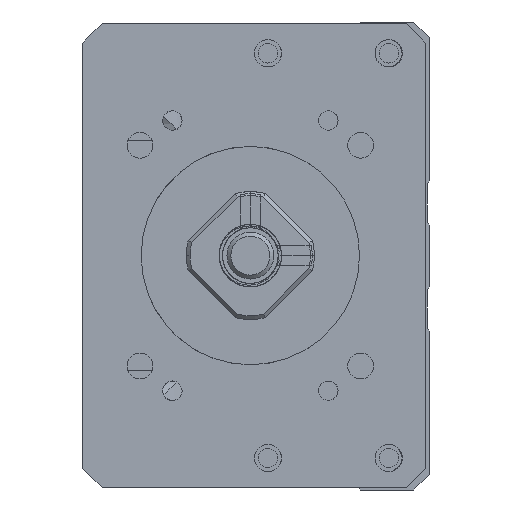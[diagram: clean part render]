
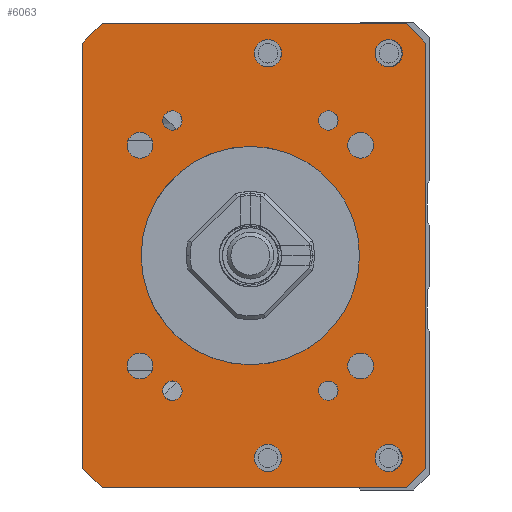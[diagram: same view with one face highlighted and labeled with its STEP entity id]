
A CAD part, left-side view. The second image highlights one B-rep face of the part: STEP entity #6063.
In plain terms, the highlighted planar face has unit normal (-1, 0, 0).
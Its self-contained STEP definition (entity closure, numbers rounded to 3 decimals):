
#4393=LINE('',#18594,#5220);
#4395=LINE('',#18618,#5222);
#4396=LINE('',#18620,#5223);
#4397=LINE('',#18622,#5224);
#4398=LINE('',#18624,#5225);
#4399=LINE('',#18626,#5226);
#4400=LINE('',#18628,#5227);
#4401=LINE('',#18630,#5228);
#5220=VECTOR('',#15532,1.);
#5222=VECTOR('',#15556,1.);
#5223=VECTOR('',#15557,1.);
#5224=VECTOR('',#15558,1.);
#5225=VECTOR('',#15559,1.);
#5226=VECTOR('',#15560,1.);
#5227=VECTOR('',#15561,1.);
#5228=VECTOR('',#15562,1.);
#6063=ADVANCED_FACE('',(#7119,#7120,#7121,#7122,#7123,#7124,#7125,#7126,
#7127,#7128,#7129,#7130,#7131,#7132),#6727,.F.);
#6727=PLANE('',#14436);
#7119=FACE_BOUND('',#7636,.T.);
#7120=FACE_BOUND('',#7637,.T.);
#7121=FACE_BOUND('',#7638,.T.);
#7122=FACE_BOUND('',#7639,.T.);
#7123=FACE_BOUND('',#7640,.T.);
#7124=FACE_BOUND('',#7641,.T.);
#7125=FACE_BOUND('',#7642,.T.);
#7126=FACE_BOUND('',#7643,.T.);
#7127=FACE_BOUND('',#7644,.T.);
#7128=FACE_BOUND('',#7645,.T.);
#7129=FACE_BOUND('',#7646,.T.);
#7130=FACE_BOUND('',#7647,.T.);
#7131=FACE_BOUND('',#7648,.T.);
#7132=FACE_BOUND('',#7649,.T.);
#7636=EDGE_LOOP('',(#8615));
#7637=EDGE_LOOP('',(#8616));
#7638=EDGE_LOOP('',(#8617));
#7639=EDGE_LOOP('',(#8618));
#7640=EDGE_LOOP('',(#8619));
#7641=EDGE_LOOP('',(#8620));
#7642=EDGE_LOOP('',(#8621));
#7643=EDGE_LOOP('',(#8622));
#7644=EDGE_LOOP('',(#8623));
#7645=EDGE_LOOP('',(#8624,#8625,#8626,#8627,#8628,#8629,#8630,#8631));
#7646=EDGE_LOOP('',(#8632));
#7647=EDGE_LOOP('',(#8633));
#7648=EDGE_LOOP('',(#8634));
#7649=EDGE_LOOP('',(#8635));
#8615=ORIENTED_EDGE('',*,*,#12577,.F.);
#8616=ORIENTED_EDGE('',*,*,#12578,.F.);
#8617=ORIENTED_EDGE('',*,*,#12579,.F.);
#8618=ORIENTED_EDGE('',*,*,#12580,.F.);
#8619=ORIENTED_EDGE('',*,*,#12581,.F.);
#8620=ORIENTED_EDGE('',*,*,#12582,.T.);
#8621=ORIENTED_EDGE('',*,*,#12583,.F.);
#8622=ORIENTED_EDGE('',*,*,#12584,.F.);
#8623=ORIENTED_EDGE('',*,*,#12585,.F.);
#8624=ORIENTED_EDGE('',*,*,#12574,.T.);
#8625=ORIENTED_EDGE('',*,*,#12586,.T.);
#8626=ORIENTED_EDGE('',*,*,#12587,.F.);
#8627=ORIENTED_EDGE('',*,*,#12588,.T.);
#8628=ORIENTED_EDGE('',*,*,#12589,.F.);
#8629=ORIENTED_EDGE('',*,*,#12590,.T.);
#8630=ORIENTED_EDGE('',*,*,#12591,.T.);
#8631=ORIENTED_EDGE('',*,*,#12592,.T.);
#8632=ORIENTED_EDGE('',*,*,#12593,.F.);
#8633=ORIENTED_EDGE('',*,*,#12594,.F.);
#8634=ORIENTED_EDGE('',*,*,#12595,.F.);
#8635=ORIENTED_EDGE('',*,*,#12554,.F.);
#11513=VERTEX_POINT('',#18533);
#11533=VERTEX_POINT('',#18593);
#11534=VERTEX_POINT('',#18595);
#11536=VERTEX_POINT('',#18601);
#11537=VERTEX_POINT('',#18603);
#11538=VERTEX_POINT('',#18605);
#11539=VERTEX_POINT('',#18607);
#11540=VERTEX_POINT('',#18609);
#11541=VERTEX_POINT('',#18611);
#11542=VERTEX_POINT('',#18613);
#11543=VERTEX_POINT('',#18615);
#11544=VERTEX_POINT('',#18617);
#11545=VERTEX_POINT('',#18619);
#11546=VERTEX_POINT('',#18621);
#11547=VERTEX_POINT('',#18623);
#11548=VERTEX_POINT('',#18625);
#11549=VERTEX_POINT('',#18627);
#11550=VERTEX_POINT('',#18629);
#11551=VERTEX_POINT('',#18632);
#11552=VERTEX_POINT('',#18634);
#11553=VERTEX_POINT('',#18636);
#12554=EDGE_CURVE('',#11513,#11513,#14015,.T.);
#12574=EDGE_CURVE('',#11534,#11533,#4393,.T.);
#12577=EDGE_CURVE('',#11536,#11536,#14024,.T.);
#12578=EDGE_CURVE('',#11537,#11537,#14025,.T.);
#12579=EDGE_CURVE('',#11538,#11538,#14026,.T.);
#12580=EDGE_CURVE('',#11539,#11539,#14027,.T.);
#12581=EDGE_CURVE('',#11540,#11540,#14028,.T.);
#12582=EDGE_CURVE('',#11541,#11541,#14029,.T.);
#12583=EDGE_CURVE('',#11542,#11542,#14030,.T.);
#12584=EDGE_CURVE('',#11543,#11543,#14031,.T.);
#12585=EDGE_CURVE('',#11544,#11544,#14032,.T.);
#12586=EDGE_CURVE('',#11533,#11545,#4395,.T.);
#12587=EDGE_CURVE('',#11546,#11545,#4396,.T.);
#12588=EDGE_CURVE('',#11546,#11547,#4397,.T.);
#12589=EDGE_CURVE('',#11548,#11547,#4398,.T.);
#12590=EDGE_CURVE('',#11548,#11549,#4399,.T.);
#12591=EDGE_CURVE('',#11549,#11550,#4400,.T.);
#12592=EDGE_CURVE('',#11550,#11534,#4401,.T.);
#12593=EDGE_CURVE('',#11551,#11551,#14033,.T.);
#12594=EDGE_CURVE('',#11552,#11552,#14034,.T.);
#12595=EDGE_CURVE('',#11553,#11553,#14035,.T.);
#14015=CIRCLE('',#14413,14.);
#14024=CIRCLE('',#14424,1.65);
#14025=CIRCLE('',#14425,1.65);
#14026=CIRCLE('',#14426,1.65);
#14027=CIRCLE('',#14427,1.65);
#14028=CIRCLE('',#14428,1.25);
#14029=CIRCLE('',#14429,1.75);
#14030=CIRCLE('',#14430,1.25);
#14031=CIRCLE('',#14431,1.75);
#14032=CIRCLE('',#14432,1.25);
#14033=CIRCLE('',#14433,1.75);
#14034=CIRCLE('',#14434,1.75);
#14035=CIRCLE('',#14435,1.25);
#14413=AXIS2_PLACEMENT_3D('',#18532,#15506,#15507);
#14424=AXIS2_PLACEMENT_3D('',#18600,#15538,#15539);
#14425=AXIS2_PLACEMENT_3D('',#18602,#15540,#15541);
#14426=AXIS2_PLACEMENT_3D('',#18604,#15542,#15543);
#14427=AXIS2_PLACEMENT_3D('',#18606,#15544,#15545);
#14428=AXIS2_PLACEMENT_3D('',#18608,#15546,#15547);
#14429=AXIS2_PLACEMENT_3D('',#18610,#15548,#15549);
#14430=AXIS2_PLACEMENT_3D('',#18612,#15550,#15551);
#14431=AXIS2_PLACEMENT_3D('',#18614,#15552,#15553);
#14432=AXIS2_PLACEMENT_3D('',#18616,#15554,#15555);
#14433=AXIS2_PLACEMENT_3D('',#18631,#15563,#15564);
#14434=AXIS2_PLACEMENT_3D('',#18633,#15565,#15566);
#14435=AXIS2_PLACEMENT_3D('',#18635,#15567,#15568);
#14436=AXIS2_PLACEMENT_3D('',#18637,#15569,#15570);
#15506=DIRECTION('',(-1.,0.,0.));
#15507=DIRECTION('',(0.,1.,0.));
#15532=DIRECTION('',(0.,0.,-1.));
#15538=DIRECTION('',(-1.,0.,0.));
#15539=DIRECTION('',(0.,0.,1.));
#15540=DIRECTION('',(-1.,0.,0.));
#15541=DIRECTION('',(0.,0.,1.));
#15542=DIRECTION('',(-1.,0.,0.));
#15543=DIRECTION('',(0.,0.,1.));
#15544=DIRECTION('',(-1.,0.,0.));
#15545=DIRECTION('',(0.,0.,1.));
#15546=DIRECTION('',(-1.,0.,0.));
#15547=DIRECTION('',(0.,1.,0.));
#15548=DIRECTION('',(1.,0.,0.));
#15549=DIRECTION('',(0.,0.,1.));
#15550=DIRECTION('',(-1.,0.,0.));
#15551=DIRECTION('',(0.,1.,0.));
#15552=DIRECTION('',(-1.,0.,0.));
#15553=DIRECTION('',(0.,0.,1.));
#15554=DIRECTION('',(-1.,0.,0.));
#15555=DIRECTION('',(0.,1.,0.));
#15556=DIRECTION('',(0.,-0.707,-0.707));
#15557=DIRECTION('',(0.,1.,0.));
#15558=DIRECTION('',(0.,-0.707,0.707));
#15559=DIRECTION('',(0.,0.,-1.));
#15560=DIRECTION('',(0.,0.707,0.707));
#15561=DIRECTION('',(0.,1.,0.));
#15562=DIRECTION('',(0.,0.707,-0.707));
#15563=DIRECTION('',(-1.,0.,0.));
#15564=DIRECTION('',(0.,0.,1.));
#15565=DIRECTION('',(-1.,0.,0.));
#15566=DIRECTION('',(0.,0.,1.));
#15567=DIRECTION('',(-1.,0.,0.));
#15568=DIRECTION('',(0.,1.,0.));
#15569=DIRECTION('',(1.,0.,0.));
#15570=DIRECTION('',(0.,1.,0.));
#18532=CARTESIAN_POINT('',(-211.,0.,0.));
#18533=CARTESIAN_POINT('',(-211.,14.,0.));
#18593=CARTESIAN_POINT('',(-211.,21.499,-27.25));
#18594=CARTESIAN_POINT('',(-211.,21.499,29.75));
#18595=CARTESIAN_POINT('',(-211.,21.499,27.25));
#18600=CARTESIAN_POINT('',(-211.,14.142,14.142));
#18601=CARTESIAN_POINT('',(-211.,14.142,15.792));
#18602=CARTESIAN_POINT('',(-211.,-14.142,14.142));
#18603=CARTESIAN_POINT('',(-211.,-14.142,15.792));
#18604=CARTESIAN_POINT('',(-211.,14.142,-14.142));
#18605=CARTESIAN_POINT('',(-211.,14.142,-12.492));
#18606=CARTESIAN_POINT('',(-211.,-14.142,-14.142));
#18607=CARTESIAN_POINT('',(-211.,-14.142,-12.492));
#18608=CARTESIAN_POINT('',(-211.,-10.,-17.321));
#18609=CARTESIAN_POINT('',(-211.,-8.75,-17.321));
#18610=CARTESIAN_POINT('',(-211.,-2.25,-25.936));
#18611=CARTESIAN_POINT('',(-211.,-2.25,-24.186));
#18612=CARTESIAN_POINT('',(-211.,10.,17.321));
#18613=CARTESIAN_POINT('',(-211.,11.25,17.321));
#18614=CARTESIAN_POINT('',(-211.,-2.25,25.936));
#18615=CARTESIAN_POINT('',(-211.,-2.25,27.686));
#18616=CARTESIAN_POINT('',(-211.,10.,-17.321));
#18617=CARTESIAN_POINT('',(-211.,11.25,-17.321));
#18618=CARTESIAN_POINT('',(-211.,18.999,-29.75));
#18619=CARTESIAN_POINT('',(-211.,18.999,-29.75));
#18620=CARTESIAN_POINT('',(-211.,-22.501,-29.75));
#18621=CARTESIAN_POINT('',(-211.,-20.001,-29.75));
#18622=CARTESIAN_POINT('',(-211.,-22.501,-27.25));
#18623=CARTESIAN_POINT('',(-211.,-22.501,-27.25));
#18624=CARTESIAN_POINT('',(-211.,-22.501,29.75));
#18625=CARTESIAN_POINT('',(-211.,-22.501,27.25));
#18626=CARTESIAN_POINT('',(-211.,-22.501,27.25));
#18627=CARTESIAN_POINT('',(-211.,-20.001,29.75));
#18628=CARTESIAN_POINT('',(-211.,-22.501,29.75));
#18629=CARTESIAN_POINT('',(-211.,18.999,29.75));
#18630=CARTESIAN_POINT('',(-211.,18.999,29.75));
#18631=CARTESIAN_POINT('',(-211.,-17.75,25.936));
#18632=CARTESIAN_POINT('',(-211.,-17.75,27.686));
#18633=CARTESIAN_POINT('',(-211.,-17.75,-25.936));
#18634=CARTESIAN_POINT('',(-211.,-17.75,-24.186));
#18635=CARTESIAN_POINT('',(-211.,-10.,17.321));
#18636=CARTESIAN_POINT('',(-211.,-8.75,17.321));
#18637=CARTESIAN_POINT('',(-211.,-22.501,29.75));
